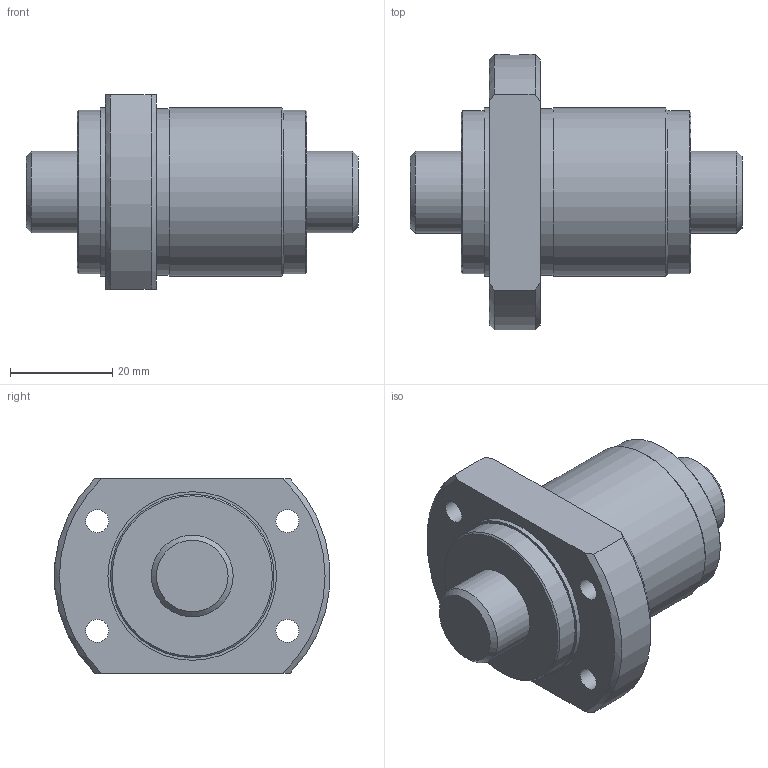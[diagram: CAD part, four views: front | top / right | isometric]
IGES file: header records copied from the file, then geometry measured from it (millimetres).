
Start section: Data from Parasolid IGES Translator 26.0.171, Copyright(c) 2006 Siemens PLM Software. All Rights Reserved.
Global section: file name: SBK1616-3.6RRG0+65LC0(0000).igs; native system: By Siemens PLM Incorporated; preprocessor: XPlus GENERIC/IGES 26.0.171; author: Noname; organization: Noname; date: 20240528.111925; units: millimetre
Bounding box: 65 x 53.9 x 38 mm (x, y, z)
Surface area: 14914 mm2 (no closed solid volume)
Topology: 0 solids, 0 shells, 36 faces, 161 edges, 133 vertices
Faces by surface type: revolution 25, extrusion 11
